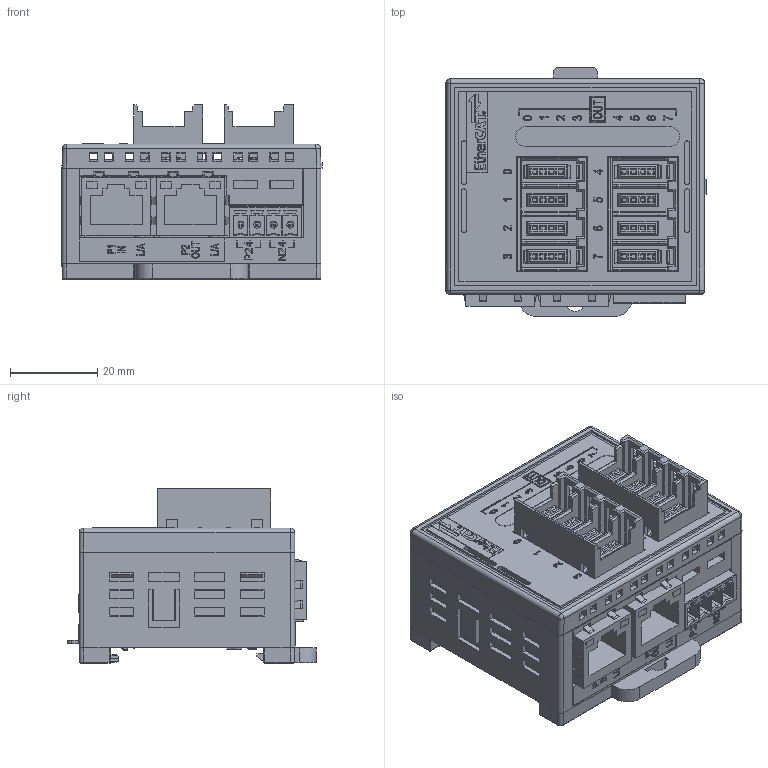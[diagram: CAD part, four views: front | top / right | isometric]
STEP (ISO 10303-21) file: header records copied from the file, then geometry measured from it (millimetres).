
FILE_DESCRIPTION((''),'2;1');
FILE_NAME('ECCEP08','2026-05-11T14:10:30',('gijyu181'),(''),'CREO PARAMETRIC BY PTC INC, 2018050','CREO PARAMETRIC BY PTC INC, 2018050','');
FILE_SCHEMA(('CONFIG_CONTROL_DESIGN','SHAPE_APPEARANCE_LAYERS_GROUPS'));
Products named in the file (1): ECCEP08
Bounding box: 59.75 x 57.15 x 40 mm (x, y, z)
Volume: 70224.2 mm3; surface area: 41024.4 mm2
Topology: 1 solids, 15 shells, 7418 faces, 21035 edges, 13919 vertices
Faces by surface type: plane 5711, cylinder 897, extrusion 696, sphere 44, torus 26, bspline 24, cone 20
Entity records: 301082 total; most frequent: CARTESIAN_POINT 51553, ORIENTED_EDGE 42042, DIRECTION 35222, EDGE_CURVE 21025, VECTOR 18044, LINE 17348, VERTEX_POINT 13919, PRESENTATION_STYLE_ASSIGNMENT 10961
